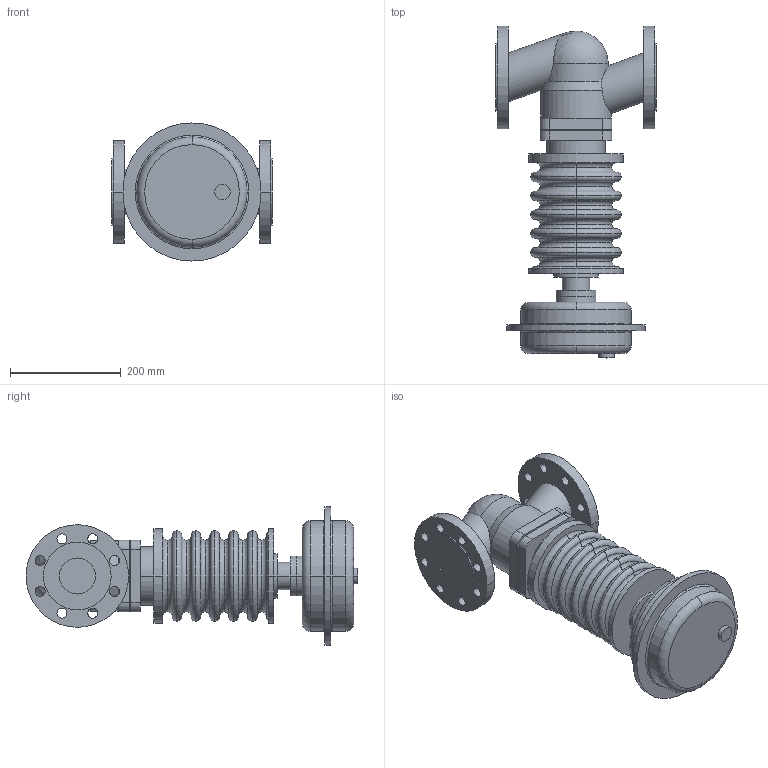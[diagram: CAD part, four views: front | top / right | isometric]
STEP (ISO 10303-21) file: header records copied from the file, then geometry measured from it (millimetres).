
FILE_DESCRIPTION( ( '' ), '1' );
FILE_NAME( 'F:/DE-SHS/TB/OR/04-Sonstiges/daten/files_3d/PREDU/PREDU-PN40-DMA250/c000005379.stp', '2014-06-03T11:25:08', ( '' ), ( '' ), ' ', ' ', ' ' );
FILE_SCHEMA( ( 'CONFIG_CONTROL_DESIGN' ) );
Length unit declared in the file: millimetre
Products named in the file (2): 1; 2
Bounding box: 290 x 598.5 x 249 mm (x, y, z)
Volume: 11208822.7 mm3; surface area: 632225.6 mm2
Topology: 2 solids, 2 shells, 189 faces, 461 edges, 297 vertices
Faces by surface type: cylinder 84, torus 54, plane 48, cone 2, sphere 1
Entity records: 6349 total; most frequent: CARTESIAN_POINT 1486, DIRECTION 1134, ORIENTED_EDGE 918, AXIS2_PLACEMENT_3D 496, EDGE_CURVE 459, CIRCLE 299, VERTEX_POINT 297, EDGE_LOOP 244
